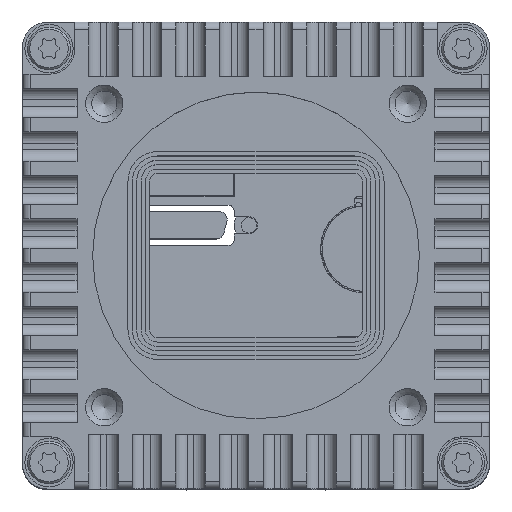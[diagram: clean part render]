
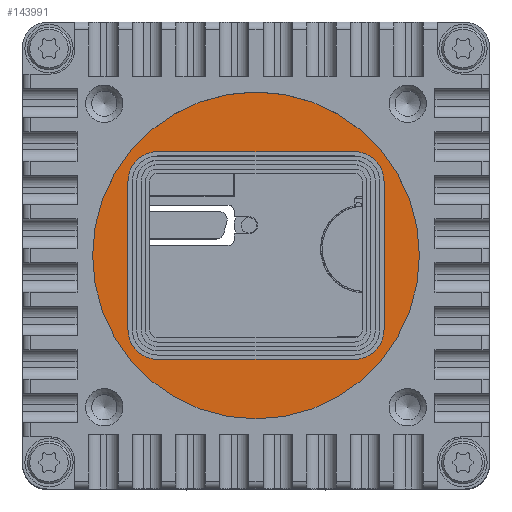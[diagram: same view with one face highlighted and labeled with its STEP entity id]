
A CAD part, top view. The second image highlights one B-rep face of the part: STEP entity #143991.
In plain terms, the highlighted planar face has unit normal (0, 0, 1).
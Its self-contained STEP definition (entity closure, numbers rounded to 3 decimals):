
#133373=CARTESIAN_POINT('',(-16.45,9.55,-5.1));
#133374=VERTEX_POINT('',#133373);
#133381=CARTESIAN_POINT('',(-16.45,-9.55,-5.1));
#133382=VERTEX_POINT('',#133381);
#133383=CARTESIAN_POINT('',(-16.45,-9.55,-5.1));
#133384=DIRECTION('',(0.0,1.0,0.0));
#133385=VECTOR('',#133384,19.1);
#133386=LINE('',#133383,#133385);
#133387=EDGE_CURVE('',#133382,#133374,#133386,.T.);
#133413=CARTESIAN_POINT('',(-12.65,-13.35,-5.1));
#133414=VERTEX_POINT('',#133413);
#133415=CARTESIAN_POINT('',(-12.65,-9.55,-5.1));
#133416=DIRECTION('',(0.0,0.0,-1.0));
#133417=DIRECTION('',(1.0,0.0,0.0));
#133418=AXIS2_PLACEMENT_3D('',#133415,#133416,#133417);
#133419=CIRCLE('',#133418,3.8);
#133420=EDGE_CURVE('',#133414,#133382,#133419,.T.);
#133445=CARTESIAN_POINT('',(12.65,-13.35,-5.1));
#133446=VERTEX_POINT('',#133445);
#133447=CARTESIAN_POINT('',(12.65,-13.35,-5.1));
#133448=DIRECTION('',(-1.0,0.0,0.0));
#133449=VECTOR('',#133448,25.3);
#133450=LINE('',#133447,#133449);
#133451=EDGE_CURVE('',#133446,#133414,#133450,.T.);
#133477=CARTESIAN_POINT('',(16.45,-9.55,-5.1));
#133478=VERTEX_POINT('',#133477);
#133479=CARTESIAN_POINT('',(12.65,-9.55,-5.1));
#133480=DIRECTION('',(0.0,0.0,-1.0));
#133481=DIRECTION('',(0.0,1.0,0.0));
#133482=AXIS2_PLACEMENT_3D('',#133479,#133480,#133481);
#133483=CIRCLE('',#133482,3.8);
#133484=EDGE_CURVE('',#133478,#133446,#133483,.T.);
#133509=CARTESIAN_POINT('',(16.45,9.55,-5.1));
#133510=VERTEX_POINT('',#133509);
#133511=CARTESIAN_POINT('',(16.45,9.55,-5.1));
#133512=DIRECTION('',(0.0,-1.0,0.0));
#133513=VECTOR('',#133512,19.1);
#133514=LINE('',#133511,#133513);
#133515=EDGE_CURVE('',#133510,#133478,#133514,.T.);
#133541=CARTESIAN_POINT('',(12.65,13.35,-5.1));
#133542=VERTEX_POINT('',#133541);
#133543=CARTESIAN_POINT('',(12.65,9.55,-5.1));
#133544=DIRECTION('',(0.0,0.0,-1.0));
#133545=DIRECTION('',(-1.0,0.0,0.0));
#133546=AXIS2_PLACEMENT_3D('',#133543,#133544,#133545);
#133547=CIRCLE('',#133546,3.8);
#133548=EDGE_CURVE('',#133542,#133510,#133547,.T.);
#133573=CARTESIAN_POINT('',(-12.65,13.35,-5.1));
#133574=VERTEX_POINT('',#133573);
#133575=CARTESIAN_POINT('',(-12.65,13.35,-5.1));
#133576=DIRECTION('',(1.0,0.0,0.0));
#133577=VECTOR('',#133576,25.3);
#133578=LINE('',#133575,#133577);
#133579=EDGE_CURVE('',#133574,#133542,#133578,.T.);
#133603=CARTESIAN_POINT('',(-12.65,9.55,-5.1));
#133604=DIRECTION('',(0.0,0.0,-1.0));
#133605=DIRECTION('',(0.0,-1.0,0.0));
#133606=AXIS2_PLACEMENT_3D('',#133603,#133604,#133605);
#133607=CIRCLE('',#133606,3.8);
#133608=EDGE_CURVE('',#133374,#133574,#133607,.T.);
#143929=CARTESIAN_POINT('',(0.,21.8,-5.1));
#143930=VERTEX_POINT('',#143929);
#143931=CARTESIAN_POINT('',(0.,0.,-5.1));
#143932=DIRECTION('',(0.0,0.0,1.0));
#143933=DIRECTION('',(0.0,1.0,0.0));
#143934=AXIS2_PLACEMENT_3D('',#143931,#143932,#143933);
#143935=CIRCLE('',#143934,21.8);
#143936=EDGE_CURVE('',#143930,#143930,#143935,.T.);
#143973=CARTESIAN_POINT('',(0.,0.,-5.1));
#143974=DIRECTION('',(0.0,0.0,-1.0));
#143975=DIRECTION('',(-1.0,0.0,0.0));
#143976=AXIS2_PLACEMENT_3D('',#143973,#143974,#143975);
#143977=PLANE('',#143976);
#143978=ORIENTED_EDGE('',*,*,#143936,.T.);
#143979=EDGE_LOOP('',(#143978));
#143980=FACE_OUTER_BOUND('',#143979,.T.);
#143981=ORIENTED_EDGE('',*,*,#133387,.T.);
#143982=ORIENTED_EDGE('',*,*,#133608,.T.);
#143983=ORIENTED_EDGE('',*,*,#133579,.T.);
#143984=ORIENTED_EDGE('',*,*,#133548,.T.);
#143985=ORIENTED_EDGE('',*,*,#133515,.T.);
#143986=ORIENTED_EDGE('',*,*,#133484,.T.);
#143987=ORIENTED_EDGE('',*,*,#133451,.T.);
#143988=ORIENTED_EDGE('',*,*,#133420,.T.);
#143989=EDGE_LOOP('',(#143981,#143982,#143983,#143984,#143985,#143986,#143987,#143988));
#143990=FACE_BOUND('',#143989,.T.);
#143991=ADVANCED_FACE('',(#143980,#143990),#143977,.F.);
